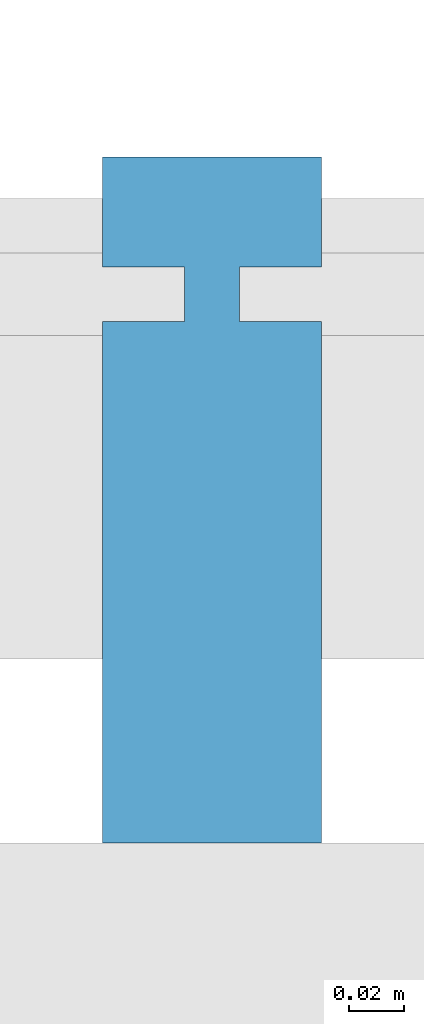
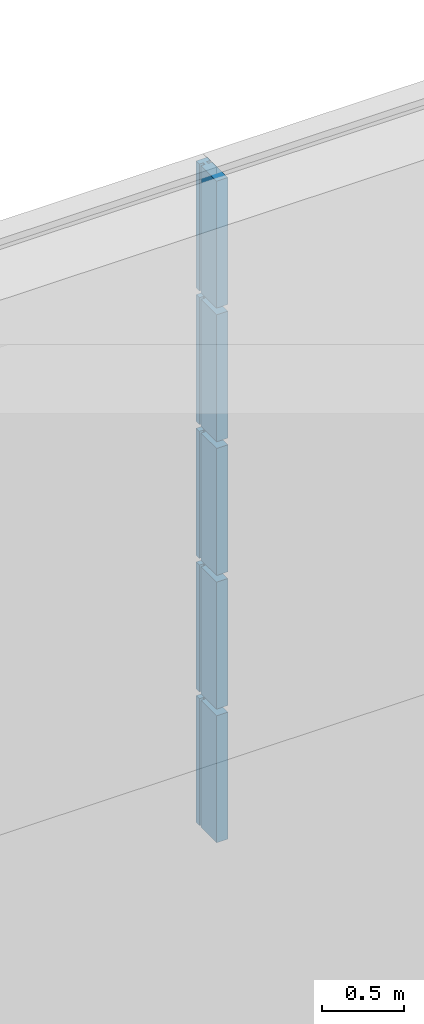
# One storey, part 92 of 105: 5 building element parts, 2 elements without a shape of their own.
"""IFC4 building model written with IfcOpenShell, lengths in millimetres."""

import ifcopenshell
import ifcopenshell.guid

model = None  # the IFC model being written
_history = None  # IfcOwnerHistory: only IFC2X3 demands one
_inside = {}  # id of a spatial element -> (the spatial element, [elements in it])
_under = {}  # id of a project, library or spatial element -> (it, [spatial elements below it])
_declared = {}  # id of a project -> (the project, [libraries it declares])
_typed = {}  # id of a type object -> (the type object, [elements of that type])
_made_of = {}  # id of a material, layer set ... -> (it, [elements and type objects made of it])


def new_model(schema):
    """Start an empty IFC model of exactly this schema.

    Asked for "IFC4X3", IfcOpenShell would pick the latest addendum, in which some entities
    have other attributes; the version numbers below select the first issue.
    IFC2X3 requires an IfcOwnerHistory on every rooted entity: one is made here for all.
    """
    global model, _history
    if schema == "IFC4X3":
        model = ifcopenshell.file(schema_version=(4, 3, 0, 0))
    else:
        model = ifcopenshell.file(schema=schema)
    _inside.clear()
    _under.clear()
    _declared.clear()
    _typed.clear()
    _made_of.clear()
    _history = None
    if model.schema == "IFC2X3":
        org = make("IfcOrganization", Name="unknown")
        user = make(
            "IfcPersonAndOrganization",
            ThePerson=make("IfcPerson", FamilyName="unknown"),
            TheOrganization=org,
        )
        app = make(
            "IfcApplication",
            ApplicationDeveloper=org,
            Version="unknown",
            ApplicationFullName="unknown",
            ApplicationIdentifier="unknown",
        )
        _history = make(
            "IfcOwnerHistory",
            OwningUser=user,
            OwningApplication=app,
            ChangeAction="ADDED",
            CreationDate=0,
        )
    return model


def make(cls, **values):
    """One entity of the class cls with the attributes given. An attribute that is None is left unset."""
    return model.create_entity(
        cls, **{name: value for name, value in values.items() if value is not None}
    )


def entity(cls, *values):
    """Any entity or typed value of the class cls, its attributes in the order of the schema. None: left unset."""
    e = model.create_entity(cls)
    for i, value in enumerate(values):
        if value is not None:
            e[i] = value
    return e


def rooted(cls, **values):
    """An entity with a GlobalId (a new one), such as an element, a storey or a relation."""
    return make(cls, GlobalId=ifcopenshell.guid.new(), OwnerHistory=_history, **values)


def si_unit(unit_type, name, prefix=None):
    """IfcSIUnit, for example si_unit("LENGTHUNIT", "METRE", prefix="MILLI")."""
    return make("IfcSIUnit", UnitType=unit_type, Prefix=prefix, Name=name)


def converted_unit(unit_type, name, factor, base, dimensions=None, offset=None):
    """IfcConversionBasedUnit, such as the inch: factor (a typed value) times the base unit."""
    return make(
        "IfcConversionBasedUnit"
        if offset is None
        else "IfcConversionBasedUnitWithOffset",
        ConversionOffset=offset,
        Dimensions=None
        if dimensions is None
        else entity("IfcDimensionalExponents", *dimensions),
        UnitType=unit_type,
        Name=name,
        ConversionFactor=make(
            "IfcMeasureWithUnit", ValueComponent=factor, UnitComponent=base
        ),
    )


def derived_unit(unit_type, elements):
    """IfcDerivedUnit: a product of units, each with its exponent."""
    return make(
        "IfcDerivedUnit",
        Elements=[
            make("IfcDerivedUnitElement", Unit=unit, Exponent=power)
            for unit, power in elements
        ],
        UnitType=unit_type,
    )


def assignment(units):
    """IfcUnitAssignment: the units of a project."""
    return None if units is None else make("IfcUnitAssignment", Units=units)


def point(xyz):
    """IfcCartesianPoint."""
    return None if xyz is None else make("IfcCartesianPoint", Coordinates=xyz)


def direction(xyz):
    """IfcDirection."""
    return None if xyz is None else make("IfcDirection", DirectionRatios=xyz)


def frame(location, z_axis=None, x_axis=None):
    """IfcAxis2Placement3D, a coordinate frame: its origin and axes. An axis left out is left unset."""
    return make(
        "IfcAxis2Placement3D",
        Location=point(location),
        Axis=direction(z_axis),
        RefDirection=direction(x_axis),
    )


def origin_with_axes():
    """The frame at (0, 0, 0) with the z axis (0, 0, 1) and the x axis (1, 0, 0) written out."""
    return frame((0.0, 0.0, 0.0), z_axis=(0.0, 0.0, 1.0), x_axis=(1.0, 0.0, 0.0))


def place(relative_to, where):
    """IfcLocalPlacement: puts the frame where relative to a parent placement (None: the world)."""
    return make(
        "IfcLocalPlacement", PlacementRelTo=relative_to, RelativePlacement=where
    )


def context(
    kind, dimensions, precision=None, world=None, true_north=None, identifier=None
):
    """IfcGeometricRepresentationContext, for example the 3D "Model" context."""
    return make(
        "IfcGeometricRepresentationContext",
        ContextIdentifier=identifier,
        ContextType=kind,
        CoordinateSpaceDimension=dimensions,
        Precision=precision,
        WorldCoordinateSystem=world,
        TrueNorth=true_north,
    )


def subcontext(parent, identifier, kind, view, scale=None):
    """IfcGeometricRepresentationSubContext, for example "Body" below "Model"."""
    return make(
        "IfcGeometricRepresentationSubContext",
        ContextIdentifier=identifier,
        ContextType=kind,
        ParentContext=parent,
        TargetScale=scale,
        TargetView=view,
    )


def project(units=None, contexts=None):
    """IfcProject with its units and contexts."""
    return rooted(
        "IfcProject",
        Name="project",
        RepresentationContexts=contexts,
        UnitsInContext=assignment(units),
    )


def spatial(cls, under=None, at=None, **own):
    """A site, building, storey or space (cls), placed at a placement, below another one or the project."""
    s = rooted(cls, ObjectPlacement=at, **own)
    if under is not None:
        _under.setdefault(under.id(), (under, []))[1].append(s)
    return s


def point_list(points):
    """IfcCartesianPointList2D or 3D."""
    cls = (
        "IfcCartesianPointList2D" if len(points[0]) == 2 else "IfcCartesianPointList3D"
    )
    return make(cls, CoordList=points)


def triangles(points, corners, closed=None, point_numbers=None):
    """IfcTriangulatedFaceSet: each triangle names its three corners, points numbered from 1."""
    return make(
        "IfcTriangulatedFaceSet",
        Coordinates=point_list(points),
        Closed=closed,
        CoordIndex=corners,
        PnIndex=point_numbers,
    )


def shape(context_of_items, identifier, shape_type, items):
    """IfcShapeRepresentation: the items that make up one representation, for example the "Body"."""
    return make(
        "IfcShapeRepresentation",
        ContextOfItems=context_of_items,
        RepresentationIdentifier=identifier,
        RepresentationType=shape_type,
        Items=items,
    )


def material(Name=None, Category=None):
    """IfcMaterial."""
    return make("IfcMaterial", Name=Name, Category=Category)


def made_of(thing, what):
    """Note that an element or type object is made of a material, layer set ...; save() writes the relation."""
    if what is not None:
        _made_of.setdefault(what.id(), (what, []))[1].append(thing)
    return thing


def element(
    cls,
    number,
    at=None,
    inside=None,
    cuts=None,
    type_object=None,
    material=None,
    context=None,
    identifier="Body",
    shape_type=None,
    held_by="IfcProductDefinitionShape",
    body=None,
    shapes=None,
    **own,
):
    """One element of the class cls, such as IfcWall. Its Tag is "e" and its number.

    at: its placement. inside: the storey or other place that contains it. cuts: it is an
    opening in that element (IfcRelVoidsElement). A single representation is given by context,
    identifier, shape_type and body (its items); several are given by shapes. held_by: the class
    of the entity that holds the representations. save() writes the other relations.
    """
    e = rooted(cls, Tag="e%d" % number, ObjectPlacement=at, **own)
    if body is not None:
        shapes = [shape(context, identifier, shape_type, body)]
    if shapes is not None:
        e.Representation = make(held_by, Representations=shapes)
    if inside is not None:
        _inside.setdefault(inside.id(), (inside, []))[1].append(e)
    if cuts is not None:
        rooted(
            "IfcRelVoidsElement", RelatingBuildingElement=cuts, RelatedOpeningElement=e
        )
    if type_object is not None:
        _typed.setdefault(type_object.id(), (type_object, []))[1].append(e)
    return made_of(e, material)


def aggregate(whole, parts):
    """IfcRelAggregates: a whole, such as a stair, and the parts it consists of."""
    return rooted("IfcRelAggregates", RelatingObject=whole, RelatedObjects=parts)


def save(model, path):
    """Write the relations noted so far, then the file.

    IfcRelAggregates (storeys below a building ...), IfcRelContainedInSpatialStructure (elements
    in a storey), IfcRelDefinesByType, IfcRelAssociatesMaterial and IfcRelDeclares: one each for
    every whole, place, type object, material and project.
    """
    for whole, parts in _under.values():
        aggregate(whole, parts)
    for where, things in _inside.values():
        rooted(
            "IfcRelContainedInSpatialStructure",
            RelatedElements=things,
            RelatingStructure=where,
        )
    for kind, things in _typed.values():
        rooted("IfcRelDefinesByType", RelatedObjects=things, RelatingType=kind)
    for what, things in _made_of.values():
        rooted("IfcRelAssociatesMaterial", RelatedObjects=things, RelatingMaterial=what)
    for by, libraries in _declared.values():
        rooted("IfcRelDeclares", RelatingContext=by, RelatedDefinitions=libraries)
    model.write(path)


model = new_model("IFC4")

# Units and contexts
model_context = context("Model", 3, precision=1e-05, world=origin_with_axes(), true_north=direction((0.0, 1.0)))
body_context = subcontext(model_context, "Body", "Model", "MODEL_VIEW")
ifc_project = project(units=[si_unit("LENGTHUNIT", "METRE", prefix="MILLI"), si_unit("AREAUNIT", "SQUARE_METRE"), si_unit("VOLUMEUNIT", "CUBIC_METRE"), converted_unit("PLANEANGLEUNIT", "DEGREE", entity("IfcLengthMeasure", 0.017453), si_unit("PLANEANGLEUNIT", "RADIAN"), dimensions=[0, 0, 0, 0, 0, 0, 0]), si_unit("SOLIDANGLEUNIT", "STERADIAN"), si_unit("MASSUNIT", "GRAM"), si_unit("TIMEUNIT", "SECOND"), si_unit("THERMODYNAMICTEMPERATUREUNIT", "DEGREE_CELSIUS"), si_unit("LUMINOUSINTENSITYUNIT", "LUMEN"), si_unit("POWERUNIT", "WATT"), derived_unit("THERMALTRANSMITTANCEUNIT", [(si_unit("POWERUNIT", "WATT"), 1), (si_unit("THERMODYNAMICTEMPERATUREUNIT", "KELVIN"), -1), (si_unit("AREAUNIT", "SQUARE_METRE"), -1)])], contexts=[model_context])

# Site, building, storey
site_placement = place(None, origin_with_axes())
site = spatial("IfcSite", under=ifc_project, at=site_placement, Name="Default Site", CompositionType="ELEMENT")
building_placement = place(site_placement, origin_with_axes())
building = spatial("IfcBuilding", under=site, at=building_placement, Name="Default Building", CompositionType="ELEMENT")
storey_placement = place(building_placement, origin_with_axes())
storey = spatial("IfcBuildingStorey", under=building, at=storey_placement, Name="OG - Story", CompositionType="ELEMENT", Elevation=0.0)

# Curtain wall, building element parts
curtain_wall_1_placement = place(storey_placement, origin_with_axes())
curtain_wall_1 = element("IfcCurtainWall", 1, at=curtain_wall_1_placement, inside=storey, Name="Fassade-004", PredefinedType="NOTDEFINED")
ifc_material = material(Name="Blech")
building_element_part_1_placement = place(curtain_wall_1_placement, frame((33014.549222, -4389.262838, 6000.0), z_axis=(0.0, 0.0, 1.0), x_axis=(1.0, 0.0, 0.0)))
building_element_part_1 = element("IfcBuildingElementPart", 2, at=building_element_part_1_placement, material=ifc_material, Name="Blech", PredefinedType="NOTDEFINED", context=body_context, shape_type="Tessellation", body=[
    triangles([(29092.632, -9.999, 1975.0), (29092.632, -199.999, 1975.0), (29062.632, -9.999, 1975.0), (29042.632, -9.999, 1975.0), (29062.632, 10.0, 1975.0), (29092.632, 50.0, 1975.0), (29092.632, 10.0, 1975.0), (29012.632, -199.999, 1975.0), (29012.632, -9.999, 1975.0), (29042.632, 10.0, 1975.0), (29012.632, 10.0, 1975.0), (29012.632, 50.0, 1975.0), (29062.632, -9.999, 1025.0), (29062.632, 10.0, 1025.0), (29092.632, 10.0, 1025.0), (29092.632, 50.0, 1025.0), (29012.632, 50.0, 1025.0), (29012.632, 10.0, 1025.0), (29042.632, 10.0, 1025.0), (29042.632, -9.999, 1025.0), (29012.632, -9.999, 1025.0), (29012.632, -199.999, 1025.0), (29092.632, -199.999, 1025.0), (29092.632, -9.999, 1025.0)], [[1, 2, 3], [3, 2, 4], [3, 4, 5], [5, 4, 6], [5, 6, 7], [8, 9, 4], [8, 4, 2], [6, 4, 10], [6, 10, 11], [6, 11, 12], [3, 13, 14], [3, 14, 5], [5, 14, 15], [5, 15, 7], [15, 16, 6], [15, 6, 7], [12, 6, 16], [12, 16, 17], [18, 11, 12], [18, 12, 17], [11, 18, 19], [11, 19, 10], [4, 10, 19], [4, 19, 20], [9, 4, 20], [9, 20, 21], [9, 21, 22], [9, 22, 8], [2, 8, 22], [2, 22, 23], [1, 2, 23], [1, 23, 24], [1, 24, 13], [1, 13, 3], [15, 16, 14], [14, 16, 19], [14, 19, 13], [13, 19, 23], [13, 23, 24], [17, 18, 19], [17, 19, 16], [23, 19, 20], [23, 20, 21], [23, 21, 22]], closed=False),
])
building_element_part_2_placement = place(curtain_wall_1_placement, frame((33014.549222, -4389.262838, 6000.0), z_axis=(0.0, 0.0, 1.0), x_axis=(1.0, 0.0, 0.0)))
building_element_part_2 = element("IfcBuildingElementPart", 3, at=building_element_part_2_placement, material=ifc_material, Name="Blech", PredefinedType="NOTDEFINED", context=body_context, shape_type="Tessellation", body=[
    triangles([(29092.632, -9.999, 2975.0), (29092.632, -199.999, 2975.0), (29062.632, -9.999, 2975.0), (29042.632, -9.999, 2975.0), (29062.632, 10.0, 2975.0), (29092.632, 50.0, 2975.0), (29092.632, 10.0, 2975.0), (29012.632, -199.999, 2975.0), (29012.632, -9.999, 2975.0), (29042.632, 10.0, 2975.0), (29012.632, 10.0, 2975.0), (29012.632, 50.0, 2975.0), (29062.632, -9.999, 2025.0), (29062.632, 10.0, 2025.0), (29092.632, 10.0, 2025.0), (29092.632, 50.0, 2025.0), (29012.632, 50.0, 2025.0), (29012.632, 10.0, 2025.0), (29042.632, 10.0, 2025.0), (29042.632, -9.999, 2025.0), (29012.632, -9.999, 2025.0), (29012.632, -199.999, 2025.0), (29092.632, -199.999, 2025.0), (29092.632, -9.999, 2025.0)], [[1, 2, 3], [3, 2, 4], [3, 4, 5], [5, 4, 6], [5, 6, 7], [8, 9, 4], [8, 4, 2], [6, 4, 10], [6, 10, 11], [6, 11, 12], [3, 13, 14], [3, 14, 5], [5, 14, 15], [5, 15, 7], [15, 16, 6], [15, 6, 7], [12, 6, 16], [12, 16, 17], [18, 11, 12], [18, 12, 17], [11, 18, 19], [11, 19, 10], [4, 10, 19], [4, 19, 20], [9, 4, 20], [9, 20, 21], [9, 21, 22], [9, 22, 8], [2, 8, 22], [2, 22, 23], [1, 2, 23], [1, 23, 24], [1, 24, 13], [1, 13, 3], [15, 16, 14], [14, 16, 19], [14, 19, 13], [13, 19, 23], [13, 23, 24], [17, 18, 19], [17, 19, 16], [23, 19, 20], [23, 20, 21], [23, 21, 22]], closed=False),
])
aggregate(curtain_wall_1, [building_element_part_1, building_element_part_2])

curtain_wall_2_placement = place(storey_placement, origin_with_axes())
curtain_wall_2 = element("IfcCurtainWall", 4, at=curtain_wall_2_placement, inside=storey, Name="Fassade-004", PredefinedType="NOTDEFINED")
building_element_part_3_placement = place(curtain_wall_2_placement, frame((33014.549222, -4389.262838, 9000.0), z_axis=(0.0, 0.0, 1.0), x_axis=(1.0, 0.0, 0.0)))
building_element_part_3 = element("IfcBuildingElementPart", 5, at=building_element_part_3_placement, material=ifc_material, Name="Blech", PredefinedType="NOTDEFINED", context=body_context, shape_type="Tessellation", body=[
    triangles([(29092.632, -9.999, 975.0), (29092.632, -199.999, 975.0), (29062.632, -9.999, 975.0), (29042.632, -9.999, 975.0), (29062.632, 10.0, 975.0), (29092.632, 50.0, 975.0), (29092.632, 10.0, 975.0), (29012.632, -199.999, 975.0), (29012.632, -9.999, 975.0), (29042.632, 10.0, 975.0), (29012.632, 10.0, 975.0), (29012.632, 50.0, 975.0), (29062.632, -9.999, 25.0), (29062.632, 10.0, 25.0), (29092.632, 10.0, 25.0), (29092.632, 50.0, 25.0), (29012.632, 50.0, 25.0), (29012.632, 10.0, 25.0), (29042.632, 10.0, 25.0), (29042.632, -9.999, 25.0), (29012.632, -9.999, 25.0), (29012.632, -199.999, 25.0), (29092.632, -199.999, 25.0), (29092.632, -9.999, 25.0)], [[1, 2, 3], [3, 2, 4], [3, 4, 5], [5, 4, 6], [5, 6, 7], [8, 9, 4], [8, 4, 2], [6, 4, 10], [6, 10, 11], [6, 11, 12], [3, 13, 14], [3, 14, 5], [5, 14, 15], [5, 15, 7], [15, 16, 6], [15, 6, 7], [12, 6, 16], [12, 16, 17], [18, 11, 12], [18, 12, 17], [11, 18, 19], [11, 19, 10], [4, 10, 19], [4, 19, 20], [9, 4, 20], [9, 20, 21], [9, 21, 22], [9, 22, 8], [2, 8, 22], [2, 22, 23], [1, 2, 23], [1, 23, 24], [1, 24, 13], [1, 13, 3], [15, 16, 14], [14, 16, 19], [14, 19, 13], [13, 19, 23], [13, 23, 24], [17, 18, 19], [17, 19, 16], [23, 19, 20], [23, 20, 21], [23, 21, 22]], closed=False),
])
building_element_part_4_placement = place(curtain_wall_2_placement, frame((33014.549222, -4389.262838, 9000.0), z_axis=(0.0, 0.0, 1.0), x_axis=(1.0, 0.0, 0.0)))
building_element_part_4 = element("IfcBuildingElementPart", 6, at=building_element_part_4_placement, material=ifc_material, Name="Blech", PredefinedType="NOTDEFINED", context=body_context, shape_type="Tessellation", body=[
    triangles([(29092.632, -9.999, 1975.0), (29092.632, -199.999, 1975.0), (29062.632, -9.999, 1975.0), (29042.632, -9.999, 1975.0), (29062.632, 10.0, 1975.0), (29092.632, 50.0, 1975.0), (29092.632, 10.0, 1975.0), (29012.632, -199.999, 1975.0), (29012.632, -9.999, 1975.0), (29042.632, 10.0, 1975.0), (29012.632, 10.0, 1975.0), (29012.632, 50.0, 1975.0), (29062.632, -9.999, 1025.0), (29062.632, 10.0, 1025.0), (29092.632, 10.0, 1025.0), (29092.632, 50.0, 1025.0), (29012.632, 50.0, 1025.0), (29012.632, 10.0, 1025.0), (29042.632, 10.0, 1025.0), (29042.632, -9.999, 1025.0), (29012.632, -9.999, 1025.0), (29012.632, -199.999, 1025.0), (29092.632, -199.999, 1025.0), (29092.632, -9.999, 1025.0)], [[1, 2, 3], [3, 2, 4], [3, 4, 5], [5, 4, 6], [5, 6, 7], [8, 9, 4], [8, 4, 2], [6, 4, 10], [6, 10, 11], [6, 11, 12], [3, 13, 14], [3, 14, 5], [5, 14, 15], [5, 15, 7], [15, 16, 6], [15, 6, 7], [12, 6, 16], [12, 16, 17], [18, 11, 12], [18, 12, 17], [11, 18, 19], [11, 19, 10], [4, 10, 19], [4, 19, 20], [9, 4, 20], [9, 20, 21], [9, 21, 22], [9, 22, 8], [2, 8, 22], [2, 22, 23], [1, 2, 23], [1, 23, 24], [1, 24, 13], [1, 13, 3], [15, 16, 14], [14, 16, 19], [14, 19, 13], [13, 19, 23], [13, 23, 24], [17, 18, 19], [17, 19, 16], [23, 19, 20], [23, 20, 21], [23, 21, 22]], closed=False),
])
building_element_part_5_placement = place(curtain_wall_2_placement, frame((33014.549222, -4389.262838, 9000.0), z_axis=(0.0, 0.0, 1.0), x_axis=(1.0, 0.0, 0.0)))
building_element_part_5 = element("IfcBuildingElementPart", 7, at=building_element_part_5_placement, material=ifc_material, Name="Blech", PredefinedType="NOTDEFINED", context=body_context, shape_type="Tessellation", body=[
    triangles([(29092.632, -9.999, 2975.0), (29092.632, -199.999, 2975.0), (29062.632, -9.999, 2975.0), (29042.632, -9.999, 2975.0), (29062.632, 10.0, 2975.0), (29092.632, 50.0, 2975.0), (29092.632, 10.0, 2975.0), (29012.632, -199.999, 2975.0), (29012.632, -9.999, 2975.0), (29042.632, 10.0, 2975.0), (29012.632, 10.0, 2975.0), (29012.632, 50.0, 2975.0), (29062.632, -9.999, 2025.0), (29062.632, 10.0, 2025.0), (29092.632, 10.0, 2025.0), (29092.632, 50.0, 2025.0), (29012.632, 50.0, 2025.0), (29012.632, 10.0, 2025.0), (29042.632, 10.0, 2025.0), (29042.632, -9.999, 2025.0), (29012.632, -9.999, 2025.0), (29012.632, -199.999, 2025.0), (29092.632, -199.999, 2025.0), (29092.632, -9.999, 2025.0)], [[1, 2, 3], [3, 2, 4], [3, 4, 5], [5, 4, 6], [5, 6, 7], [8, 9, 4], [8, 4, 2], [6, 4, 10], [6, 10, 11], [6, 11, 12], [3, 13, 14], [3, 14, 5], [5, 14, 15], [5, 15, 7], [15, 16, 6], [15, 6, 7], [12, 6, 16], [12, 16, 17], [18, 11, 12], [18, 12, 17], [11, 18, 19], [11, 19, 10], [4, 10, 19], [4, 19, 20], [9, 4, 20], [9, 20, 21], [9, 21, 22], [9, 22, 8], [2, 8, 22], [2, 22, 23], [1, 2, 23], [1, 23, 24], [1, 24, 13], [1, 13, 3], [15, 16, 14], [14, 16, 19], [14, 19, 13], [13, 19, 23], [13, 23, 24], [17, 18, 19], [17, 19, 16], [23, 19, 20], [23, 20, 21], [23, 21, 22]], closed=False),
])
aggregate(curtain_wall_2, [building_element_part_3, building_element_part_4, building_element_part_5])

save(model, "model.ifc")
